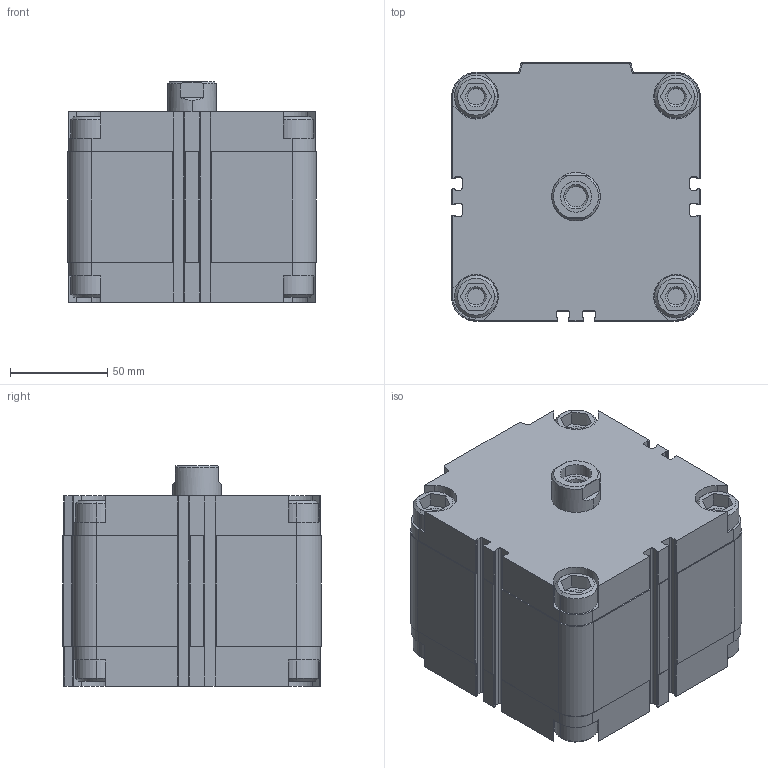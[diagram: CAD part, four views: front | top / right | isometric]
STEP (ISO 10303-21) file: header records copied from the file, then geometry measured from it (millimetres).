
FILE_DESCRIPTION (( 'STEP AP203' ), '1' );
FILE_NAME ('QF1000030A.step', '2012-10-18T17:07:56', ( '' ), ( '' ), 'SwSTEP 2.0', 'SolidWorks 2012', '' );
FILE_SCHEMA (( 'CONFIG_CONTROL_DESIGN' ));
Length unit declared in the file: millimetre
Products named in the file (1): QF1000030A
Bounding box: 128 x 133 x 113.5 mm (x, y, z)
Volume: 1556438.7 mm3; surface area: 106699.2 mm2
Topology: 1 solids, 1 shells, 522 faces, 1426 edges, 932 vertices
Faces by surface type: plane 272, cylinder 198, cone 52
Entity records: 16911 total; most frequent: CARTESIAN_POINT 3305, DIRECTION 2864, ORIENTED_EDGE 2844, EDGE_CURVE 1422, AXIS2_PLACEMENT_3D 967, VERTEX_POINT 932, VECTOR 930, LINE 930
